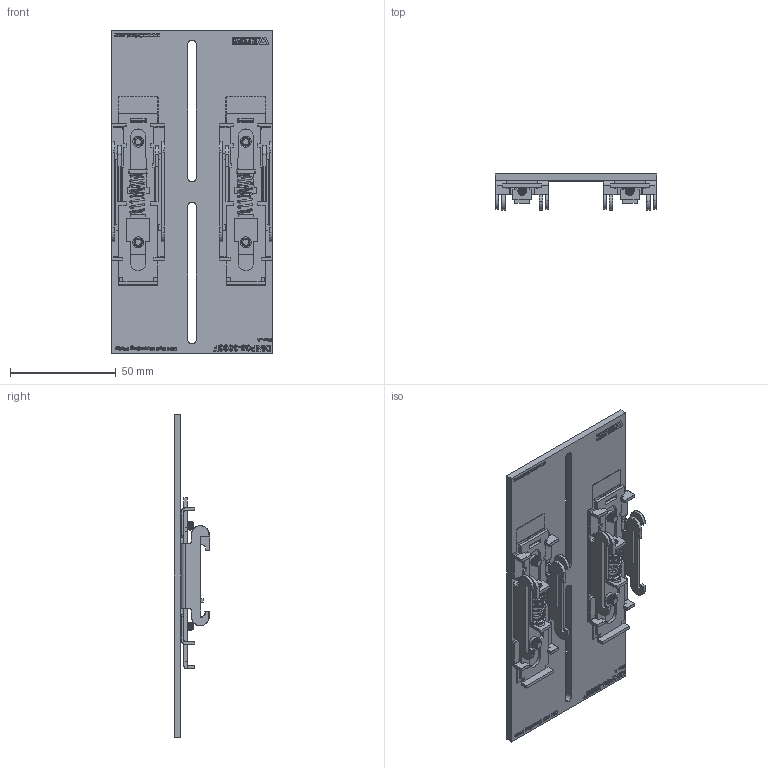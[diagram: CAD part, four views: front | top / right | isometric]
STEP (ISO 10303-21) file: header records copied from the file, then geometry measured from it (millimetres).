
FILE_DESCRIPTION (( 'STEP AP214' ), '1' );
FILE_NAME ('dinp05-3060f_rev_a.step', '2022-12-12T21:12:10', ( '' ), ( '' ), 'SwSTEP 2.0', 'SolidWorks 2018', '' );
FILE_SCHEMA (( 'AUTOMOTIVE_DESIGN' ));
Length unit declared in the file: inch
Products named in the file (4): dinp05-3060f_rev_a; dinp05-3060f_Plate; M4 8mm FH_M4 8mm FH; dinm23
Assembly tree (7 placements, depth 2):
  dinp05-3060f_rev_a
    dinp05-3060f_Plate
    dinm23  x2
    M4 8mm FH_M4 8mm FH  x4
Bounding box: 76.2 x 16.98 x 152.4 mm (x, y, z)
Volume: 45563.5 mm3; surface area: 43051.2 mm2
Topology: 11 solids, 11 shells, 2967 faces, 7788 edges, 5022 vertices
Faces by surface type: plane 1847, cylinder 552, bspline 484, cone 84
Entity records: 112062 total; most frequent: CARTESIAN_POINT 35662, ORIENTED_EDGE 11926, DIRECTION 9500, EDGE_CURVE 5963, VECTOR 4712, LINE 4712, VERTEX_POINT 3905, EDGE_LOOP 2528
